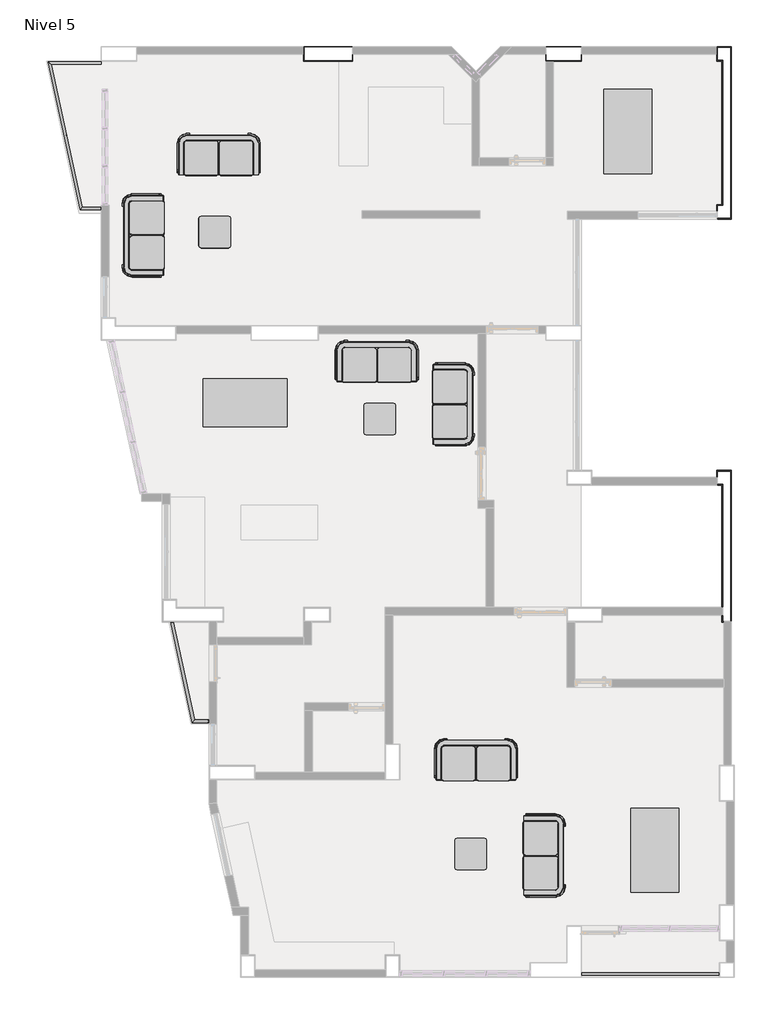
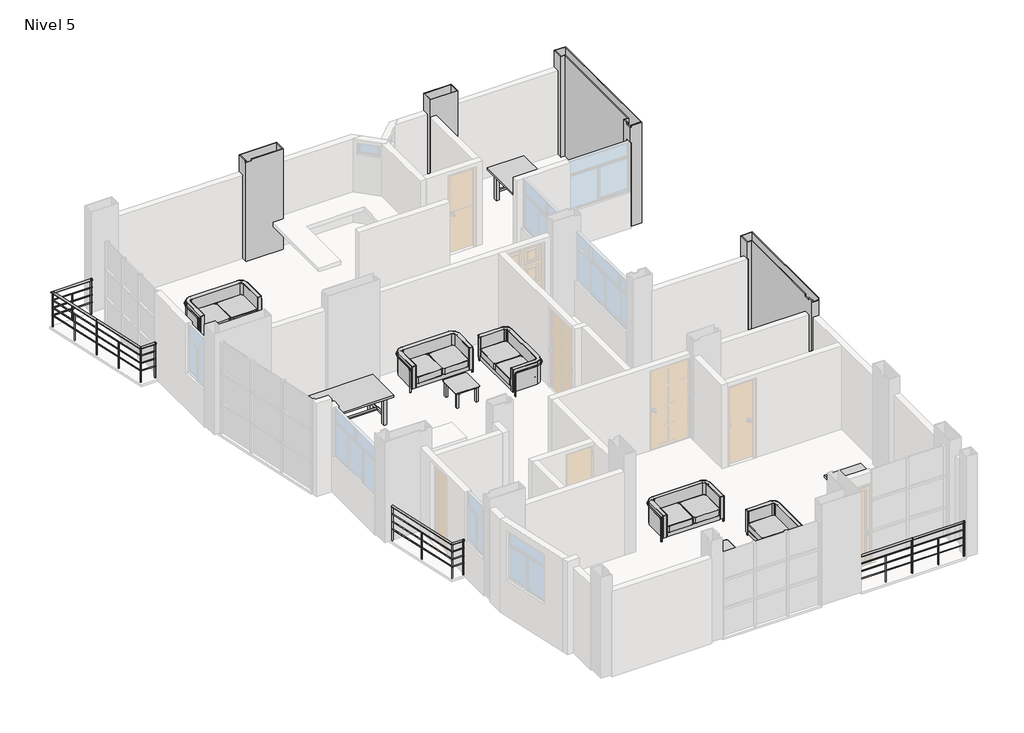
# One storey, part 4 of 4: 12 furniture elements, 4 columns, 3 railings.
"""IFC4 building model written with IfcOpenShell, lengths in millimetres."""

from ifc_helpers import new_model, si_unit, point, frame, frame_2d, origin, place, context, project, spatial, circle_curve, ellipse_curve, trimmed, segment, composite_curve, outline, extrude, faceted_brep, transform, mapped, element, save
from ifc_brep_helpers import plane_surface, cylinder_surface, advanced_brep
from components import furniture_18450899, furniture_bfac4297, furniture_160_x_80_cm_madera_claro_7cd3064c, furniture_600mm_x_600mm_a769e95e

model = new_model("IFC4")

# Units and contexts
model_context = context("Model", 3, world=origin())
ifc_project = project(units=[si_unit("LENGTHUNIT", "METRE", prefix="MILLI")], contexts=[model_context])

# Site, building, storey
site = spatial("IfcSite", under=ifc_project)
building = spatial("IfcBuilding", under=site)
storey = spatial("IfcBuildingStorey", under=building, Name="Nivel 5", Elevation=10750.0)

# Columns
placement = place(None, origin())
element("IfcColumn", 1, ObjectType="Columna U Arquitectonica : Columna U Arquitectonica", at=placement, inside=storey, context=model_context, shape_type="Brep", body=[
    faceted_brep([(9050.0, 14400.0, 10750.0), (9300.0, 14400.0, 10750.0), (9300.0, 17650.0, 10750.0), (9050.0, 17650.0, 10750.0), (9050.0, 17400.0, 10750.0), (9150.0, 17400.0, 10750.0), (9150.0, 14650.0, 10750.0), (9050.0, 14650.0, 10750.0), (9050.0, 14535.0, 10750.0), (9035.0, 14535.0, 10750.0), (9035.0, 14665.0, 10750.0), (9135.0, 14665.0, 10750.0), (9135.0, 17385.0, 10750.0), (9035.0, 17385.0, 10750.0), (9035.0, 17665.0, 10750.0), (9315.0, 17665.0, 10750.0), (9315.0, 14385.0, 10750.0), (9050.0, 14385.0, 10750.0), (9150.0, 14650.0, 13400.0), (9050.0, 14650.0, 13400.0), (9150.0, 17400.0, 13400.0), (9050.0, 17400.0, 13400.0), (9050.0, 17650.0, 13400.0), (9300.0, 17650.0, 13400.0), (9300.0, 14400.0, 13400.0), (9050.0, 14400.0, 12950.0), (9050.0, 14400.0, 13350.0), (9050.0, 14400.0, 13400.0), (9050.0, 14535.0, 13400.0), (9050.0, 14535.0, 13350.0), (9050.0, 14535.0, 12950.0), (9050.0, 14385.0, 13400.0), (9315.0, 14385.0, 13400.0), (9315.0, 17665.0, 13400.0), (9035.0, 17665.0, 13400.0), (9035.0, 17385.0, 13400.0), (9135.0, 17385.0, 13400.0), (9135.0, 14665.0, 13400.0), (9035.0, 14665.0, 13400.0), (9035.0, 14535.0, 13400.0), (9035.0, 17665.0, 13350.0), (9035.0, 17665.0, 12950.0), (9050.0, 14385.0, 13350.0), (9035.0, 14385.0, 13350.0), (9035.0, 14385.0, 12950.0), (9050.0, 14385.0, 12950.0), (9035.0, 14535.0, 11650.0), (9035.0, 14535.0, 12950.0), (9035.0, 14535.0, 13350.0)], [[[0, 1, 2, 3, 4, 5, 6, 7, 8, 9, 10, 11, 12, 13, 14, 15, 16, 17]], [[7, 6, 18, 19]], [[6, 5, 20, 18]], [[5, 4, 21, 20]], [[4, 3, 22, 21]], [[3, 2, 23, 22]], [[2, 1, 24, 23]], [[1, 0, 25, 26, 27, 24]], [[7, 19, 28, 29, 26, 25, 30, 8]], [[19, 18, 20, 21, 22, 23, 24, 27, 31, 32, 33, 34, 35, 36, 37, 38, 39, 28]], [[11, 10, 38, 37]], [[12, 11, 37, 36]], [[13, 12, 36, 35]], [[14, 13, 35, 34, 40, 41]], [[15, 14, 41, 40, 34, 33]], [[16, 15, 33, 32]], [[16, 32, 31, 42, 43, 44, 45, 17]], [[38, 10, 9, 46, 47, 44, 43, 48, 39]], [[9, 8, 30, 47, 46]], [[45, 25, 0, 17]], [[25, 45, 44, 47, 30]], [[48, 29, 28, 39]], [[42, 26, 29, 48, 43]], [[26, 42, 31, 27]]]),
])
element("IfcColumn", 2, ObjectType="Columna L Arquitectonica : ACO_L 25x285x25x15 cm", at=placement, inside=storey, context=model_context, shape_type="Brep", body=[
    faceted_brep([(9050.0, 9350.0, 10750.0), (9150.0, 9350.0, 10750.0), (9150.0, 7015.0, 10750.0), (9135.0, 7015.0, 10750.0), (9135.0, 9335.0, 10750.0), (9050.0, 9335.0, 10750.0), (9150.0, 6750.0, 10750.0), (9150.0, 6750.0, 13400.0), (9165.0, 6750.0, 13400.0), (9165.0, 6750.0, 13350.0), (9300.0, 6750.0, 13350.0), (9300.0, 6750.0, 12950.0), (9165.0, 6750.0, 12950.0), (9165.0, 6750.0, 10750.0), (9300.0, 9600.0, 10750.0), (9300.0, 6750.0, 10750.0), (9300.0, 6750.0, 13400.0), (9300.0, 9600.0, 13400.0), (9050.0, 9600.0, 10750.0), (9050.0, 9600.0, 13400.0), (9050.0, 9350.0, 13400.0), (9050.0, 9350.0, 12950.0), (9050.0, 9485.0, 12950.0), (9050.0, 9485.0, 10750.0), (9150.0, 9350.0, 13400.0), (9150.0, 6865.0, 10750.0), (9150.0, 6865.0, 12950.0), (9150.0, 7015.0, 12950.0), (9150.0, 7015.0, 13400.0), (9150.0, 7015.0, 13350.0), (9150.0, 6865.0, 13350.0), (9150.0, 6865.0, 13400.0), (9135.0, 9335.0, 13400.0), (9135.0, 7015.0, 12950.0), (9135.0, 6865.0, 12950.0), (9135.0, 6865.0, 10750.0), (9135.0, 6735.0, 10750.0), (9135.0, 6735.0, 13400.0), (9135.0, 6865.0, 13400.0), (9135.0, 6865.0, 13350.0), (9135.0, 7015.0, 13350.0), (9135.0, 7015.0, 13400.0), (9035.0, 9335.0, 13400.0), (9035.0, 9335.0, 12950.0), (9050.0, 9335.0, 12950.0), (9035.0, 9615.0, 13400.0), (9035.0, 9615.0, 10750.0), (9035.0, 9485.0, 10750.0), (9035.0, 9485.0, 12950.0), (9315.0, 9615.0, 10750.0), (9315.0, 9615.0, 13400.0), (9315.0, 6750.0, 13400.0), (9315.0, 6750.0, 13350.0), (9315.0, 6735.0, 13350.0), (9315.0, 6735.0, 12950.0), (9315.0, 6750.0, 12950.0), (9315.0, 6750.0, 10750.0), (9165.0, 6735.0, 10750.0), (9165.0, 6735.0, 12950.0), (9165.0, 6735.0, 13350.0), (9165.0, 6735.0, 13400.0)], [[[0, 1, 2, 3, 4, 5]], [[6, 7, 8, 9, 10, 11, 12, 13]], [[14, 15, 11, 10, 16, 17]], [[18, 14, 17, 19]], [[18, 19, 20, 21, 22, 23]], [[1, 0, 21, 20, 24]], [[7, 6, 25, 26, 27, 2, 1, 24, 28, 29, 30, 31]], [[32, 4, 3, 33, 34, 35, 36, 37, 38, 39, 40, 41]], [[4, 32, 42, 43, 44, 5]], [[42, 45, 46, 47, 48, 43]], [[49, 46, 45, 50]], [[49, 50, 51, 52, 53, 54, 55, 56]], [[37, 36, 57, 58, 54, 53, 59, 60]], [[17, 16, 51, 50, 45, 42, 32, 41, 28, 24, 20, 19]], [[35, 34, 26, 25]], [[33, 3, 2, 27]], [[34, 33, 27, 26]], [[12, 58, 57, 13]], [[11, 55, 54, 58, 12]], [[55, 11, 15, 56]], [[36, 35, 25, 6, 13, 57]], [[22, 48, 47, 23]], [[44, 21, 0, 5]], [[48, 22, 21, 44, 43]], [[15, 14, 18, 23, 47, 46, 49, 56]], [[59, 9, 8, 60]], [[52, 10, 9, 59, 53]], [[10, 52, 51, 16]], [[40, 29, 28, 41]], [[30, 39, 38, 31]], [[29, 40, 39, 30]], [[8, 7, 31, 38, 37, 60]]]),
])
element("IfcColumn", 3, ObjectType="Columna Rectangular Arquitectonica : ACO_Rectangular 25x65 cm", at=placement, inside=storey, context=model_context, shape_type="Brep", body=[
    faceted_brep([(5785.0, 17665.0, 10750.0), (6465.0, 17665.0, 10750.0), (6465.0, 17385.0, 10750.0), (5785.0, 17385.0, 10750.0), (5800.0, 17650.0, 10750.0), (5800.0, 17400.0, 10750.0), (6450.0, 17400.0, 10750.0), (6450.0, 17650.0, 10750.0), (5800.0, 17650.0, 13400.0), (5800.0, 17400.0, 13400.0), (6450.0, 17400.0, 13400.0), (6450.0, 17650.0, 13400.0), (5785.0, 17665.0, 13400.0), (6465.0, 17665.0, 13400.0), (6465.0, 17665.0, 13350.0), (6465.0, 17665.0, 12950.0), (5785.0, 17665.0, 12950.0), (5785.0, 17665.0, 13350.0), (6465.0, 17385.0, 13400.0), (5785.0, 17385.0, 13400.0), (5785.0, 17385.0, 13350.0), (5785.0, 17385.0, 12950.0)], [[[0, 1, 2, 3], [4, 5, 6, 7]], [[8, 9, 5, 4]], [[9, 10, 6, 5]], [[10, 11, 7, 6]], [[11, 8, 4, 7]], [[12, 13, 14, 15, 1, 0, 16, 17]], [[13, 18, 2, 1, 15, 14]], [[18, 19, 20, 21, 3, 2]], [[19, 12, 17, 16, 0, 3, 21, 20]], [[12, 19, 18, 13], [8, 11, 10, 9]]]),
])
element("IfcColumn", 4, ObjectType="Columna Rectangular Arquitectonica : ACO_Rectangular 25x90 cm", at=placement, inside=storey, context=model_context, shape_type="Brep", body=[
    faceted_brep([(1185.0, 17665.0, 10750.0), (2115.0, 17665.0, 10750.0), (2115.0, 17385.0, 10750.0), (1185.0, 17385.0, 10750.0), (1200.0, 17650.0, 10750.0), (1200.0, 17400.0, 10750.0), (2100.0, 17400.0, 10750.0), (2100.0, 17650.0, 10750.0), (1200.0, 17650.0, 13400.0), (1200.0, 17400.0, 13400.0), (1200.0, 17400.0, 13350.0), (1335.0, 17400.0, 13350.0), (1335.0, 17400.0, 13400.0), (2100.0, 17400.0, 13400.0), (2100.0, 17650.0, 13400.0), (1185.0, 17665.0, 12950.0), (1185.0, 17665.0, 13350.0), (1185.0, 17665.0, 13400.0), (2115.0, 17665.0, 13400.0), (2115.0, 17665.0, 13350.0), (2115.0, 17665.0, 12950.0), (2115.0, 17385.0, 13400.0), (1335.0, 17385.0, 13400.0), (1335.0, 17385.0, 13350.0), (1185.0, 17385.0, 13350.0), (1185.0, 17400.0, 13350.0), (1185.0, 17400.0, 13400.0)], [[[0, 1, 2, 3], [4, 5, 6, 7]], [[5, 4, 8, 9, 10]], [[6, 5, 10, 11, 12, 13]], [[7, 6, 13, 14]], [[4, 7, 14, 8]], [[1, 0, 15, 16, 17, 18, 19, 20]], [[2, 1, 20, 19, 18, 21]], [[3, 2, 21, 22, 23, 24]], [[0, 3, 24, 25, 26, 17, 16, 15]], [[9, 8, 14, 13, 12, 22, 21, 18, 17, 26]], [[11, 23, 22, 12]], [[10, 25, 24, 23, 11]], [[25, 10, 9, 26]]]),
])

# Furniture
furniture_shape = furniture_18450899(model_context)
furniture_2_shape = furniture_bfac4297(model_context)
element("IfcFurniture", 5, ObjectType="00304 - Haworth - Castelli - Jul 13 - Ver - 4 - M_Sit (SLMS-FD02-8P) : Settee_SLMS-FD-02", at=placement, inside=storey, context=model_context, shape_type="MappedRepresentation", body=[
    mapped(furniture_shape, transform((-468.0610143, 15301.2276294, 10750.0), x_axis=(1.0, 0.0, 0.0), y_axis=(0.0, 1.0, 0.0), z_axis=(0.0, 0.0, 1.0))),
    mapped(furniture_2_shape, transform((-468.0610143, 15301.2276294, 10750.0), x_axis=(1.0, 0.0, 0.0), y_axis=(0.0, 1.0, 0.0), z_axis=(0.0, 0.0, 1.0))),
])
element("IfcFurniture", 6, ObjectType="00304 - Haworth - Castelli - Jul 13 - Ver - 4 - M_Sit (SLMS-FD02-8P) : Settee_SLMS-FD-02", at=placement, inside=storey, context=model_context, shape_type="MappedRepresentation", body=[
    mapped(furniture_shape, transform((-1551.2276294, 14040.2605133, 10750.0), x_axis=(0.0, 1.0, 0.0), y_axis=(-1.0, 0.0, 0.0), z_axis=(0.0, 0.0, 1.0))),
    mapped(furniture_2_shape, transform((-1551.2276294, 14040.2605133, 10750.0), x_axis=(0.0, 1.0, 0.0), y_axis=(-1.0, 0.0, 0.0), z_axis=(0.0, 0.0, 1.0))),
])
element("IfcFurniture", 7, ObjectType="00304 - Haworth - Castelli - Jul 13 - Ver - 4 - M_Sit (SLMS-FD02-8P) : Settee_SLMS-FD-02", at=placement, inside=storey, context=model_context, shape_type="MappedRepresentation", body=[
    mapped(furniture_shape, transform((2536.9389857, 11371.2276294, 10750.0), x_axis=(1.0, 0.0, 0.0), y_axis=(0.0, 1.0, 0.0), z_axis=(0.0, 0.0, 1.0))),
    mapped(furniture_2_shape, transform((2536.9389857, 11371.2276294, 10750.0), x_axis=(1.0, 0.0, 0.0), y_axis=(0.0, 1.0, 0.0), z_axis=(0.0, 0.0, 1.0))),
])
element("IfcFurniture", 8, ObjectType="00304 - Haworth - Castelli - Jul 13 - Ver - 4 - M_Sit (SLMS-FD02-8P) : Settee_SLMS-FD-02", at=placement, inside=storey, context=model_context, shape_type="MappedRepresentation", body=[
    mapped(furniture_shape, transform((3716.220252, 10908.0536369, 10750.0), x_axis=(0.0, -1.0, 0.0), y_axis=(1.0, 0.0, 0.0), z_axis=(0.0, 0.0, 1.0))),
    mapped(furniture_2_shape, transform((3716.220252, 10908.0536369, 10750.0), x_axis=(0.0, -1.0, 0.0), y_axis=(1.0, 0.0, 0.0), z_axis=(0.0, 0.0, 1.0))),
])
element("IfcFurniture", 9, ObjectType="00304 - Haworth - Castelli - Jul 13 - Ver - 4 - M_Sit (SLMS-FD02-8P) : Settee_SLMS-FD-02", at=placement, inside=storey, context=model_context, shape_type="MappedRepresentation", body=[
    mapped(furniture_shape, transform((4421.9463631, 3806.5903112, 10750.0), x_axis=(1.0, 0.0, 0.0), y_axis=(0.0, 1.0, 0.0), z_axis=(0.0, 0.0, 1.0))),
    mapped(furniture_2_shape, transform((4421.9463631, 3806.5903112, 10750.0), x_axis=(1.0, 0.0, 0.0), y_axis=(0.0, 1.0, 0.0), z_axis=(0.0, 0.0, 1.0))),
])
element("IfcFurniture", 10, ObjectType="00304 - Haworth - Castelli - Jul 13 - Ver - 4 - M_Sit (SLMS-FD02-8P) : Settee_SLMS-FD-02", at=placement, inside=storey, context=model_context, shape_type="MappedRepresentation", body=[
    mapped(furniture_shape, transform((5441.2276294, 2338.3056587, 10750.0), x_axis=(0.0, -1.0, 0.0), y_axis=(1.0, 0.0, 0.0), z_axis=(0.0, 0.0, 1.0))),
    mapped(furniture_2_shape, transform((5441.2276294, 2338.3056587, 10750.0), x_axis=(0.0, -1.0, 0.0), y_axis=(1.0, 0.0, 0.0), z_axis=(0.0, 0.0, 1.0))),
])
furniture_160_x_80_cm_madera_claro_shape = furniture_160_x_80_cm_madera_claro_7cd3064c(model_context)
element("IfcFurniture", 11, ObjectType="Mesa Comedor 6 personas : 160 x 80 cm - Madera claro", at=placement, inside=storey, context=model_context, shape_type="MappedRepresentation", body=[
    mapped(furniture_160_x_80_cm_madera_claro_shape, transform((7389.1299407, 16034.682456, 10750.0), x_axis=(0.0, 1.0, 0.0), y_axis=(-1.0, 0.0, 0.0), z_axis=(0.0, 0.0, 1.0))),
])
element("IfcFurniture", 12, ObjectType="Mesa Comedor 6 personas : 160 x 80 cm - Madera claro", at=placement, inside=storey, context=model_context, shape_type="MappedRepresentation", body=[
    mapped(furniture_160_x_80_cm_madera_claro_shape, transform((85.317544, 10939.8506137, 10750.0), x_axis=(-1.0, 0.0, 0.0), y_axis=(0.0, -1.0, 0.0), z_axis=(0.0, 0.0, 1.0))),
])
element("IfcFurniture", 13, ObjectType="Mesa Comedor 6 personas : 160 x 80 cm - Madera claro", at=placement, inside=storey, context=model_context, shape_type="MappedRepresentation", body=[
    mapped(furniture_160_x_80_cm_madera_claro_shape, transform((7820.8700593, 2415.317544, 10750.0), x_axis=(0.0, -1.0, 0.0), y_axis=(1.0, 0.0, 0.0), z_axis=(0.0, 0.0, 1.0))),
])
furniture_600mm_x_600mm_shape = furniture_600mm_x_600mm_a769e95e(model_context)
element("IfcFurniture", 14, ObjectType="Table rectangulaire - Petit : 600mm x 600mm", at=placement, inside=storey, context=model_context, shape_type="MappedRepresentation", body=[
    mapped(furniture_600mm_x_600mm_shape, transform((-534.1526908, 14170.0, 10750.0), x_axis=(1.0, 0.0, 0.0), y_axis=(0.0, 1.0, 0.0), z_axis=(0.0, 0.0, 1.0))),
])
element("IfcFurniture", 15, ObjectType="Table rectangulaire - Petit : 600mm x 600mm", at=placement, inside=storey, context=model_context, shape_type="MappedRepresentation", body=[
    mapped(furniture_600mm_x_600mm_shape, transform((2600.8941768, 10620.0, 10750.0), x_axis=(1.0, 0.0, 0.0), y_axis=(0.0, 1.0, 0.0), z_axis=(0.0, 0.0, 1.0))),
])
element("IfcFurniture", 16, ObjectType="Table rectangulaire - Petit : 600mm x 600mm", at=placement, inside=storey, context=model_context, shape_type="MappedRepresentation", body=[
    mapped(furniture_600mm_x_600mm_shape, transform((4330.8941768, 2360.0, 10750.0), x_axis=(1.0, 0.0, 0.0), y_axis=(0.0, 1.0, 0.0), z_axis=(0.0, 0.0, 1.0))),
])

# Railings
element("IfcRailing", 17, ObjectType="Montantes Horizontales", at=placement, inside=storey, context=model_context, shape_type="SolidModel", body=[
    advanced_brep(
    [(-2665.0, 17375.0, 11650.0), (-2665.0, 17325.0, 11650.0), (-3674.0339681, 17375.0, 11650.0), (-3612.062221, 17325.0, 11650.0), (-3066.2089566, 14565.0, 11650.0), (-3025.8679928, 14615.0, 11650.0), (-2665.0, 14565.0, 11650.0), (-2665.0, 14615.0, 11650.0)],
    [
        (0, 1, circle_curve(frame((-2665.0, 17350.0, 11650.0), z_axis=(1.0, 0.0, 0.0), x_axis=(0.0, -1.0, 0.0)), 25.0)),
        (1, 0, circle_curve(frame((-2665.0, 17350.0, 11650.0), z_axis=(1.0, 0.0, 0.0), x_axis=(0.0, -1.0, 0.0)), 25.0)),
        (0, 2),
        (2, 3, ellipse_curve(frame((-3643.0480946, 17350.0, 11650.0), z_axis=(0.6279258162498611, 0.7782731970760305, 0.0), x_axis=(0.7782731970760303, -0.6279258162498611, 0.0)), 39.8136203, 25.0)),
        (3, 1),
        (3, 2, ellipse_curve(frame((-3643.0480946, 17350.0, 11650.0), z_axis=(0.6279258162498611, 0.7782731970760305, 0.0), x_axis=(0.7782731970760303, -0.6279258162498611, 0.0)), 39.8136203, 25.0)),
        (2, 4),
        (4, 5, ellipse_curve(frame((-3046.0384747, 14590.0, 11650.0), z_axis=(-0.7782731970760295, 0.6279258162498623, 0.0), x_axis=(0.6279258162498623, 0.7782731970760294, 0.0)), 32.1223962, 25.0)),
        (5, 3),
        (5, 4, ellipse_curve(frame((-3046.0384747, 14590.0, 11650.0), z_axis=(-0.7782731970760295, 0.6279258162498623, 0.0), x_axis=(0.6279258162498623, 0.7782731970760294, 0.0)), 32.1223962, 25.0)),
        (6, 7, circle_curve(frame((-2665.0, 14590.0, 11650.0), z_axis=(1.0, 0.0, 0.0), x_axis=(0.0, 1.0, 0.0)), 25.0)),
        (7, 6, circle_curve(frame((-2665.0, 14590.0, 11650.0), z_axis=(1.0, 0.0, 0.0), x_axis=(0.0, 1.0, 0.0)), 25.0)),
        (4, 6),
        (7, 5),
    ],
    [
        plane_surface(frame((-2665.0, 17350.0, 11650.0), z_axis=(1.0, 0.0, 0.0), x_axis=(0.0, -1.0, 0.0))),
        cylinder_surface(frame((-2665.0, 17350.0, 11650.0), z_axis=(1.0, 0.0, 0.0), x_axis=(0.0, -1.0, 0.0)), 25.0),
        cylinder_surface(frame((-3643.0480946, 17350.0, 11650.0), z_axis=(-0.21141833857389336, 0.9773956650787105, 0.0), x_axis=(0.9773956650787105, 0.21141833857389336, 0.0)), 25.0),
        plane_surface(frame((-2665.0, 14590.0, 11650.0), z_axis=(1.0, 0.0, 0.0), x_axis=(0.0, 1.0, 0.0))),
        cylinder_surface(frame((-3046.0384747, 14590.0, 11650.0), z_axis=(-1.0, 0.0, 0.0), x_axis=(0.0, 1.0, 0.0)), 25.0),
    ],
    [
        (0, [[1, 2]]),
        (1, [[-1, 3, 4, 5]]),
        (1, [[-2, -5, 6, -3]]),
        (2, [[-4, 7, 8, 9]]),
        (2, [[-6, -9, 10, -7]]),
        (3, [[11, 12]]),
        (4, [[-8, 13, -12, 14]]),
        (4, [[-10, -14, -11, -13]]),
    ],
),
    advanced_brep(
    [(-2665.0, 17340.0, 11450.0), (-2665.0, 17360.0, 11450.0), (-3630.6537452, 17340.0, 11450.0), (-3655.442444, 17360.0, 11450.0), (-3037.970282, 14600.0, 11450.0), (-3054.1066675, 14580.0, 11450.0), (-2665.0, 14600.0, 11450.0), (-2665.0, 14580.0, 11450.0)],
    [
        (0, 1, circle_curve(frame((-2665.0, 17350.0, 11450.0), z_axis=(1.0, 0.0, 0.0), x_axis=(0.0, 1.0, 0.0)), 10.0)),
        (1, 0, circle_curve(frame((-2665.0, 17350.0, 11450.0), z_axis=(1.0, 0.0, 0.0), x_axis=(0.0, 1.0, 0.0)), 10.0)),
        (0, 2),
        (2, 3, ellipse_curve(frame((-3643.0480946, 17350.0, 11450.0), z_axis=(0.6279258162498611, 0.7782731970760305, 0.0), x_axis=(0.7782731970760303, -0.6279258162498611, 0.0)), 15.9254481, 10.0)),
        (3, 1),
        (3, 2, ellipse_curve(frame((-3643.0480946, 17350.0, 11450.0), z_axis=(0.6279258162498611, 0.7782731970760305, 0.0), x_axis=(0.7782731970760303, -0.6279258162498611, 0.0)), 15.9254481, 10.0)),
        (2, 4),
        (4, 5, ellipse_curve(frame((-3046.0384747, 14590.0, 11450.0), z_axis=(-0.7782731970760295, 0.6279258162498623, 0.0), x_axis=(0.6279258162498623, 0.7782731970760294, 0.0)), 12.8489585, 10.0)),
        (5, 3),
        (5, 4, ellipse_curve(frame((-3046.0384747, 14590.0, 11450.0), z_axis=(-0.7782731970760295, 0.6279258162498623, 0.0), x_axis=(0.6279258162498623, 0.7782731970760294, 0.0)), 12.8489585, 10.0)),
        (6, 7, circle_curve(frame((-2665.0, 14590.0, 11450.0), z_axis=(1.0, 0.0, 0.0), x_axis=(0.0, -1.0, 0.0)), 10.0)),
        (7, 6, circle_curve(frame((-2665.0, 14590.0, 11450.0), z_axis=(1.0, 0.0, 0.0), x_axis=(0.0, -1.0, 0.0)), 10.0)),
        (4, 6),
        (7, 5),
    ],
    [
        plane_surface(frame((-2665.0, 17350.0, 11450.0), z_axis=(1.0, 0.0, 0.0), x_axis=(0.0, -1.0, 0.0))),
        cylinder_surface(frame((-2665.0, 17350.0, 11450.0), z_axis=(1.0, 0.0, 0.0), x_axis=(0.0, 1.0, 0.0)), 10.0),
        cylinder_surface(frame((-3643.0480946, 17350.0, 11450.0), z_axis=(-0.21141833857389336, 0.9773956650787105, 0.0), x_axis=(-0.9773956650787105, -0.21141833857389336, 0.0)), 10.0),
        plane_surface(frame((-2665.0, 14590.0, 11450.0), z_axis=(1.0, 0.0, 0.0), x_axis=(0.0, 1.0, 0.0))),
        cylinder_surface(frame((-3046.0384747, 14590.0, 11450.0), z_axis=(-1.0, 0.0, 0.0), x_axis=(0.0, -1.0, 0.0)), 10.0),
    ],
    [
        (0, [[1, 2]]),
        (1, [[-1, 3, 4, 5]]),
        (1, [[-2, -5, 6, -3]]),
        (2, [[-4, 7, 8, 9]]),
        (2, [[-6, -9, 10, -7]]),
        (3, [[11, 12]]),
        (4, [[-8, 13, -12, 14]]),
        (4, [[-10, -14, -11, -13]]),
    ],
),
    advanced_brep(
    [(-2665.0, 17340.0, 11250.0), (-2665.0, 17360.0, 11250.0), (-3630.6537452, 17340.0, 11250.0), (-3655.442444, 17360.0, 11250.0), (-3037.970282, 14600.0, 11250.0), (-3054.1066675, 14580.0, 11250.0), (-2665.0, 14600.0, 11250.0), (-2665.0, 14580.0, 11250.0)],
    [
        (0, 1, circle_curve(frame((-2665.0, 17350.0, 11250.0), z_axis=(1.0, 0.0, 0.0), x_axis=(0.0, 1.0, 0.0)), 10.0)),
        (1, 0, circle_curve(frame((-2665.0, 17350.0, 11250.0), z_axis=(1.0, 0.0, 0.0), x_axis=(0.0, 1.0, 0.0)), 10.0)),
        (0, 2),
        (2, 3, ellipse_curve(frame((-3643.0480946, 17350.0, 11250.0), z_axis=(0.6279258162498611, 0.7782731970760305, 0.0), x_axis=(0.7782731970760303, -0.6279258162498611, 0.0)), 15.9254481, 10.0)),
        (3, 1),
        (3, 2, ellipse_curve(frame((-3643.0480946, 17350.0, 11250.0), z_axis=(0.6279258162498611, 0.7782731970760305, 0.0), x_axis=(0.7782731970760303, -0.6279258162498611, 0.0)), 15.9254481, 10.0)),
        (2, 4),
        (4, 5, ellipse_curve(frame((-3046.0384747, 14590.0, 11250.0), z_axis=(-0.7782731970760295, 0.6279258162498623, 0.0), x_axis=(0.6279258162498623, 0.7782731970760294, 0.0)), 12.8489585, 10.0)),
        (5, 3),
        (5, 4, ellipse_curve(frame((-3046.0384747, 14590.0, 11250.0), z_axis=(-0.7782731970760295, 0.6279258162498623, 0.0), x_axis=(0.6279258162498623, 0.7782731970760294, 0.0)), 12.8489585, 10.0)),
        (6, 7, circle_curve(frame((-2665.0, 14590.0, 11250.0), z_axis=(1.0, 0.0, 0.0), x_axis=(0.0, -1.0, 0.0)), 10.0)),
        (7, 6, circle_curve(frame((-2665.0, 14590.0, 11250.0), z_axis=(1.0, 0.0, 0.0), x_axis=(0.0, -1.0, 0.0)), 10.0)),
        (4, 6),
        (7, 5),
    ],
    [
        plane_surface(frame((-2665.0, 17350.0, 11250.0), z_axis=(1.0, 0.0, 0.0), x_axis=(0.0, -1.0, 0.0))),
        cylinder_surface(frame((-2665.0, 17350.0, 11250.0), z_axis=(1.0, 0.0, 0.0), x_axis=(0.0, 1.0, 0.0)), 10.0),
        cylinder_surface(frame((-3643.0480946, 17350.0, 11250.0), z_axis=(-0.21141833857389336, 0.9773956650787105, 0.0), x_axis=(-0.9773956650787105, -0.21141833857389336, 0.0)), 10.0),
        plane_surface(frame((-2665.0, 14590.0, 11250.0), z_axis=(1.0, 0.0, 0.0), x_axis=(0.0, 1.0, 0.0))),
        cylinder_surface(frame((-3046.0384747, 14590.0, 11250.0), z_axis=(-1.0, 0.0, 0.0), x_axis=(0.0, -1.0, 0.0)), 10.0),
    ],
    [
        (0, [[1, 2]]),
        (1, [[-1, 3, 4, 5]]),
        (1, [[-2, -5, 6, -3]]),
        (2, [[-4, 7, 8, 9]]),
        (2, [[-6, -9, 10, -7]]),
        (3, [[11, 12]]),
        (4, [[-8, 13, -12, 14]]),
        (4, [[-10, -14, -11, -13]]),
    ],
),
    advanced_brep(
    [(-2665.0, 17340.0, 11050.0), (-2665.0, 17360.0, 11050.0), (-3630.6537452, 17340.0, 11050.0), (-3655.442444, 17360.0, 11050.0), (-3037.970282, 14600.0, 11050.0), (-3054.1066675, 14580.0, 11050.0), (-2665.0, 14600.0, 11050.0), (-2665.0, 14580.0, 11050.0)],
    [
        (0, 1, circle_curve(frame((-2665.0, 17350.0, 11050.0), z_axis=(1.0, 0.0, 0.0), x_axis=(0.0, 1.0, 0.0)), 10.0)),
        (1, 0, circle_curve(frame((-2665.0, 17350.0, 11050.0), z_axis=(1.0, 0.0, 0.0), x_axis=(0.0, 1.0, 0.0)), 10.0)),
        (0, 2),
        (2, 3, ellipse_curve(frame((-3643.0480946, 17350.0, 11050.0), z_axis=(0.6279258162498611, 0.7782731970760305, 0.0), x_axis=(0.7782731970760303, -0.6279258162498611, 0.0)), 15.9254481, 10.0)),
        (3, 1),
        (3, 2, ellipse_curve(frame((-3643.0480946, 17350.0, 11050.0), z_axis=(0.6279258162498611, 0.7782731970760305, 0.0), x_axis=(0.7782731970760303, -0.6279258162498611, 0.0)), 15.9254481, 10.0)),
        (2, 4),
        (4, 5, ellipse_curve(frame((-3046.0384747, 14590.0, 11050.0), z_axis=(-0.7782731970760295, 0.6279258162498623, 0.0), x_axis=(0.6279258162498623, 0.7782731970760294, 0.0)), 12.8489585, 10.0)),
        (5, 3),
        (5, 4, ellipse_curve(frame((-3046.0384747, 14590.0, 11050.0), z_axis=(-0.7782731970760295, 0.6279258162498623, 0.0), x_axis=(0.6279258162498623, 0.7782731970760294, 0.0)), 12.8489585, 10.0)),
        (6, 7, circle_curve(frame((-2665.0, 14590.0, 11050.0), z_axis=(1.0, 0.0, 0.0), x_axis=(0.0, -1.0, 0.0)), 10.0)),
        (7, 6, circle_curve(frame((-2665.0, 14590.0, 11050.0), z_axis=(1.0, 0.0, 0.0), x_axis=(0.0, -1.0, 0.0)), 10.0)),
        (4, 6),
        (7, 5),
    ],
    [
        plane_surface(frame((-2665.0, 17350.0, 11050.0), z_axis=(1.0, 0.0, 0.0), x_axis=(0.0, -1.0, 0.0))),
        cylinder_surface(frame((-2665.0, 17350.0, 11050.0), z_axis=(1.0, 0.0, 0.0), x_axis=(0.0, 1.0, 0.0)), 10.0),
        cylinder_surface(frame((-3643.0480946, 17350.0, 11050.0), z_axis=(-0.21141833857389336, 0.9773956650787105, 0.0), x_axis=(-0.9773956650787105, -0.21141833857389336, 0.0)), 10.0),
        plane_surface(frame((-2665.0, 14590.0, 11050.0), z_axis=(1.0, 0.0, 0.0), x_axis=(0.0, 1.0, 0.0))),
        cylinder_surface(frame((-3046.0384747, 14590.0, 11050.0), z_axis=(-1.0, 0.0, 0.0), x_axis=(0.0, -1.0, 0.0)), 10.0),
    ],
    [
        (0, [[1, 2]]),
        (1, [[-1, 3, 4, 5]]),
        (1, [[-2, -5, 6, -3]]),
        (2, [[-4, 7, 8, 9]]),
        (2, [[-6, -9, 10, -7]]),
        (3, [[11, 12]]),
        (4, [[-8, 13, -12, 14]]),
        (4, [[-10, -14, -11, -13]]),
    ],
),
    extrude(outline(composite_curve([segment(trimmed(circle_curve(frame_2d((-3195.2908797, 15280.0)), 10.0), [point((-3185.516923, 15282.1141834))], [point((-3205.0648363, 15277.8858166))], False, "CARTESIAN"), True, "CONTINUOUS"), segment(trimmed(circle_curve(frame_2d((-3195.2908797, 15280.0)), 10.0), [point((-3205.0648363, 15277.8858166))], [point((-3185.516923, 15282.1141834))], False, "CARTESIAN"), True, "CONTINUOUS")], self_intersect=False)), frame((0.0, 0.0, 10750.0), z_axis=(0.0, 0.0, 1.0), x_axis=(1.0, 0.0, 0.0)), (0.0, 0.0, 1.0), 690.0),
    extrude(outline(composite_curve([segment(trimmed(circle_curve(frame_2d((-3344.5432846, 15970.0)), 15.0), [point((-3329.8823497, 15973.1712751))], [point((-3359.2042196, 15966.8287249))], False, "CARTESIAN"), True, "CONTINUOUS"), segment(trimmed(circle_curve(frame_2d((-3344.5432846, 15970.0)), 15.0), [point((-3359.2042196, 15966.8287249))], [point((-3329.8823497, 15973.1712751))], False, "CARTESIAN"), True, "CONTINUOUS")], self_intersect=False)), frame((0.0, 0.0, 10750.0), z_axis=(0.0, 0.0, 1.0), x_axis=(1.0, 0.0, 0.0)), (0.0, 0.0, 1.0), 920.0),
    extrude(outline(composite_curve([segment(trimmed(circle_curve(frame_2d((-3493.7956896, 16660.0)), 10.0), [point((-3484.021733, 16662.1141834))], [point((-3503.5696463, 16657.8858166))], False, "CARTESIAN"), True, "CONTINUOUS"), segment(trimmed(circle_curve(frame_2d((-3493.7956896, 16660.0)), 10.0), [point((-3503.5696463, 16657.8858166))], [point((-3484.021733, 16662.1141834))], False, "CARTESIAN"), True, "CONTINUOUS")], self_intersect=False)), frame((0.0, 0.0, 10750.0), z_axis=(0.0, 0.0, 1.0), x_axis=(1.0, 0.0, 0.0)), (0.0, 0.0, 1.0), 690.0),
    extrude(outline(composite_curve([segment(trimmed(circle_curve(frame_2d((-3154.0240473, 17350.0)), 10.0), [point((-3154.0240473, 17340.0))], [point((-3154.0240473, 17360.0))], False, "CARTESIAN"), True, "CONTINUOUS"), segment(trimmed(circle_curve(frame_2d((-3154.0240473, 17350.0)), 10.0), [point((-3154.0240473, 17360.0))], [point((-3154.0240473, 17340.0))], False, "CARTESIAN"), True, "CONTINUOUS")], self_intersect=False)), frame((0.0, 0.0, 10750.0), z_axis=(0.0, 0.0, 1.0), x_axis=(1.0, 0.0, 0.0)), (0.0, 0.0, 1.0), 690.0),
    extrude(outline(composite_curve([segment(trimmed(circle_curve(frame_2d((-3046.0384747, 14590.0)), 10.0), [point((-3036.2645181, 14592.1141834))], [point((-3055.8124314, 14587.8858166))], False, "CARTESIAN"), True, "CONTINUOUS"), segment(trimmed(circle_curve(frame_2d((-3046.0384747, 14590.0)), 10.0), [point((-3055.8124314, 14587.8858166))], [point((-3036.2645181, 14592.1141834))], False, "CARTESIAN"), True, "CONTINUOUS")], self_intersect=False)), frame((0.0, 0.0, 10750.0), z_axis=(0.0, 0.0, 1.0), x_axis=(1.0, 0.0, 0.0)), (0.0, 0.0, 1.0), 920.0),
    extrude(outline(composite_curve([segment(trimmed(circle_curve(frame_2d((-3643.0480946, 17350.0)), 10.0), [point((-3643.0480946, 17340.0))], [point((-3643.0480946, 17360.0))], False, "CARTESIAN"), True, "CONTINUOUS"), segment(trimmed(circle_curve(frame_2d((-3643.0480946, 17350.0)), 10.0), [point((-3643.0480946, 17360.0))], [point((-3643.0480946, 17340.0))], False, "CARTESIAN"), True, "CONTINUOUS")], self_intersect=False)), frame((0.0, 0.0, 10750.0), z_axis=(0.0, 0.0, 1.0), x_axis=(1.0, 0.0, 0.0)), (0.0, 0.0, 1.0), 920.0),
    extrude(outline(composite_curve([segment(trimmed(circle_curve(frame_2d((-2685.0, 14590.0)), 15.0), [point((-2685.0, 14605.0))], [point((-2685.0, 14575.0))], False, "CARTESIAN"), True, "CONTINUOUS"), segment(trimmed(circle_curve(frame_2d((-2685.0, 14590.0)), 15.0), [point((-2685.0, 14575.0))], [point((-2685.0, 14605.0))], False, "CARTESIAN"), True, "CONTINUOUS")], self_intersect=False)), frame((0.0, 0.0, 10750.0), z_axis=(0.0, 0.0, 1.0), x_axis=(1.0, 0.0, 0.0)), (0.0, 0.0, 1.0), 920.0),
    extrude(outline(composite_curve([segment(trimmed(circle_curve(frame_2d((-2685.0, 17350.0)), 15.0), [point((-2685.0, 17335.0))], [point((-2685.0, 17365.0))], False, "CARTESIAN"), True, "CONTINUOUS"), segment(trimmed(circle_curve(frame_2d((-2685.0, 17350.0)), 15.0), [point((-2685.0, 17365.0))], [point((-2685.0, 17335.0))], False, "CARTESIAN"), True, "CONTINUOUS")], self_intersect=False)), frame((0.0, 0.0, 10750.0), z_axis=(0.0, 0.0, 1.0), x_axis=(1.0, 0.0, 0.0)), (0.0, 0.0, 1.0), 920.0),
])
element("IfcRailing", 18, ObjectType="Montantes Horizontales", at=placement, inside=storey, context=model_context, shape_type="SweptSolid", body=[
    extrude(outline(composite_curve([segment(trimmed(circle_curve(frame_2d((50.0, 11650.0)), 25.0), [point((25.0, 11650.0))], [point((75.0, 11650.0))], False, "CARTESIAN"), True, "CONTINUOUS"), segment(trimmed(circle_curve(frame_2d((50.0, 11650.0)), 25.0), [point((75.0, 11650.0))], [point((25.0, 11650.0))], False, "CARTESIAN"), True, "CONTINUOUS")], self_intersect=False)), frame((6465.0, 0.0, 0.0), z_axis=(1.0, 0.0, 0.0), x_axis=(0.0, 1.0, 0.0)), (0.0, 0.0, 1.0), 2620.0),
    extrude(outline(composite_curve([segment(trimmed(circle_curve(frame_2d((50.0, 11450.0)), 10.0), [point((60.0, 11450.0))], [point((40.0, 11450.0))], False, "CARTESIAN"), True, "CONTINUOUS"), segment(trimmed(circle_curve(frame_2d((50.0, 11450.0)), 10.0), [point((40.0, 11450.0))], [point((60.0, 11450.0))], False, "CARTESIAN"), True, "CONTINUOUS")], self_intersect=False)), frame((6465.0, 0.0, 0.0), z_axis=(1.0, 0.0, 0.0), x_axis=(0.0, 1.0, 0.0)), (0.0, 0.0, 1.0), 2620.0),
    extrude(outline(composite_curve([segment(trimmed(circle_curve(frame_2d((50.0, 11250.0)), 10.0), [point((60.0, 11250.0))], [point((40.0, 11250.0))], False, "CARTESIAN"), True, "CONTINUOUS"), segment(trimmed(circle_curve(frame_2d((50.0, 11250.0)), 10.0), [point((40.0, 11250.0))], [point((60.0, 11250.0))], False, "CARTESIAN"), True, "CONTINUOUS")], self_intersect=False)), frame((6465.0, 0.0, 0.0), z_axis=(1.0, 0.0, 0.0), x_axis=(0.0, 1.0, 0.0)), (0.0, 0.0, 1.0), 2620.0),
    extrude(outline(composite_curve([segment(trimmed(circle_curve(frame_2d((50.0, 11050.0)), 10.0), [point((60.0, 11050.0))], [point((40.0, 11050.0))], False, "CARTESIAN"), True, "CONTINUOUS"), segment(trimmed(circle_curve(frame_2d((50.0, 11050.0)), 10.0), [point((40.0, 11050.0))], [point((60.0, 11050.0))], False, "CARTESIAN"), True, "CONTINUOUS")], self_intersect=False)), frame((6465.0, 0.0, 0.0), z_axis=(1.0, 0.0, 0.0), x_axis=(0.0, 1.0, 0.0)), (0.0, 0.0, 1.0), 2620.0),
    extrude(outline(composite_curve([segment(trimmed(circle_curve(frame_2d((8430.0, 50.0)), 10.0), [point((8430.0, 60.0))], [point((8430.0, 40.0))], False, "CARTESIAN"), True, "CONTINUOUS"), segment(trimmed(circle_curve(frame_2d((8430.0, 50.0)), 10.0), [point((8430.0, 40.0))], [point((8430.0, 60.0))], False, "CARTESIAN"), True, "CONTINUOUS")], self_intersect=False)), frame((0.0, 0.0, 10750.0), z_axis=(0.0, 0.0, 1.0), x_axis=(1.0, 0.0, 0.0)), (0.0, 0.0, 1.0), 690.0),
    extrude(outline(composite_curve([segment(trimmed(circle_curve(frame_2d((7775.0, 50.0)), 15.0), [point((7775.0, 65.0))], [point((7775.0, 35.0))], False, "CARTESIAN"), True, "CONTINUOUS"), segment(trimmed(circle_curve(frame_2d((7775.0, 50.0)), 15.0), [point((7775.0, 35.0))], [point((7775.0, 65.0))], False, "CARTESIAN"), True, "CONTINUOUS")], self_intersect=False)), frame((0.0, 0.0, 10750.0), z_axis=(0.0, 0.0, 1.0), x_axis=(1.0, 0.0, 0.0)), (0.0, 0.0, 1.0), 920.0),
    extrude(outline(composite_curve([segment(trimmed(circle_curve(frame_2d((7120.0, 50.0)), 10.0), [point((7120.0, 60.0))], [point((7120.0, 40.0))], False, "CARTESIAN"), True, "CONTINUOUS"), segment(trimmed(circle_curve(frame_2d((7120.0, 50.0)), 10.0), [point((7120.0, 40.0))], [point((7120.0, 60.0))], False, "CARTESIAN"), True, "CONTINUOUS")], self_intersect=False)), frame((0.0, 0.0, 10750.0), z_axis=(0.0, 0.0, 1.0), x_axis=(1.0, 0.0, 0.0)), (0.0, 0.0, 1.0), 690.0),
    extrude(outline(composite_curve([segment(trimmed(circle_curve(frame_2d((9065.0, 50.0)), 15.0), [point((9065.0, 65.0))], [point((9065.0, 35.0))], False, "CARTESIAN"), True, "CONTINUOUS"), segment(trimmed(circle_curve(frame_2d((9065.0, 50.0)), 15.0), [point((9065.0, 35.0))], [point((9065.0, 65.0))], False, "CARTESIAN"), True, "CONTINUOUS")], self_intersect=False)), frame((0.0, 0.0, 10750.0), z_axis=(0.0, 0.0, 1.0), x_axis=(1.0, 0.0, 0.0)), (0.0, 0.0, 1.0), 920.0),
    extrude(outline(composite_curve([segment(trimmed(circle_curve(frame_2d((6485.0, 50.0)), 15.0), [point((6485.0, 65.0))], [point((6485.0, 35.0))], False, "CARTESIAN"), True, "CONTINUOUS"), segment(trimmed(circle_curve(frame_2d((6485.0, 50.0)), 15.0), [point((6485.0, 35.0))], [point((6485.0, 65.0))], False, "CARTESIAN"), True, "CONTINUOUS")], self_intersect=False)), frame((0.0, 0.0, 10750.0), z_axis=(0.0, 0.0, 1.0), x_axis=(1.0, 0.0, 0.0)), (0.0, 0.0, 1.0), 920.0),
])
element("IfcRailing", 19, ObjectType="Montantes Horizontales", at=placement, inside=storey, context=model_context, shape_type="SolidModel", body=[
    advanced_brep(
    [(-1345.928198, 6740.2854585, 11650.0), (-1297.0584147, 6750.8563754, 11650.0), (-931.7938522, 4825.7253635, 11650.0), (-891.4528884, 4875.7253635, 11650.0), (-615.0, 4825.7253635, 11650.0), (-615.0, 4875.7253635, 11650.0)],
    [
        (0, 1, circle_curve(frame((-1321.4933064, 6745.5709169, 11650.0), z_axis=(-0.2114183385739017, 0.9773956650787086, 0.0), x_axis=(0.9773956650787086, 0.2114183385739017, 0.0)), 25.0)),
        (1, 0, circle_curve(frame((-1321.4933064, 6745.5709169, 11650.0), z_axis=(-0.2114183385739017, 0.9773956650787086, 0.0), x_axis=(0.9773956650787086, 0.2114183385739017, 0.0)), 25.0)),
        (0, 2),
        (2, 3, ellipse_curve(frame((-911.6233703, 4850.7253635, 11650.0), z_axis=(-0.7782731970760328, 0.6279258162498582, 0.0), x_axis=(0.6279258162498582, 0.7782731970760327, 0.0)), 32.1223962, 25.0)),
        (3, 1),
        (3, 2, ellipse_curve(frame((-911.6233703, 4850.7253635, 11650.0), z_axis=(-0.7782731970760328, 0.6279258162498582, 0.0), x_axis=(0.6279258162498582, 0.7782731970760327, 0.0)), 32.1223962, 25.0)),
        (4, 5, circle_curve(frame((-615.0, 4850.7253635, 11650.0), z_axis=(1.0, 0.0, 0.0), x_axis=(0.0, 1.0, 0.0)), 25.0)),
        (5, 4, circle_curve(frame((-615.0, 4850.7253635, 11650.0), z_axis=(1.0, 0.0, 0.0), x_axis=(0.0, 1.0, 0.0)), 25.0)),
        (2, 4),
        (5, 3),
    ],
    [
        plane_surface(frame((-1321.4933064, 6745.5709169, 11650.0), z_axis=(-0.2114183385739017, 0.9773956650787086, 0.0), x_axis=(0.9773956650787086, 0.2114183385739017, 0.0))),
        cylinder_surface(frame((-1321.4933064, 6745.5709169, 11650.0), z_axis=(-0.2114183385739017, 0.9773956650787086, 0.0), x_axis=(0.9773956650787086, 0.2114183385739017, 0.0)), 25.0),
        plane_surface(frame((-615.0, 4850.7253635, 11650.0), z_axis=(1.0, 0.0, 0.0), x_axis=(0.0, 1.0, 0.0))),
        cylinder_surface(frame((-911.6233703, 4850.7253635, 11650.0), z_axis=(-1.0, 0.0, 0.0), x_axis=(0.0, 1.0, 0.0)), 25.0),
    ],
    [
        (0, [[1, 2]]),
        (1, [[-1, 3, 4, 5]]),
        (1, [[-2, -5, 6, -3]]),
        (2, [[7, 8]]),
        (3, [[-4, 9, -8, 10]]),
        (3, [[-6, -10, -7, -9]]),
    ],
),
    advanced_brep(
    [(-1311.7193497, 6747.6851003, 11450.0), (-1331.267263, 6743.4567335, 11450.0), (-903.5551775, 4860.7253635, 11450.0), (-919.691563, 4840.7253635, 11450.0), (-615.0, 4860.7253635, 11450.0), (-615.0, 4840.7253635, 11450.0)],
    [
        (0, 1, circle_curve(frame((-1321.4933064, 6745.5709169, 11450.0), z_axis=(-0.2114183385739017, 0.9773956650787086, 0.0), x_axis=(-0.9773956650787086, -0.2114183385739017, 0.0)), 10.0)),
        (1, 0, circle_curve(frame((-1321.4933064, 6745.5709169, 11450.0), z_axis=(-0.2114183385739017, 0.9773956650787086, 0.0), x_axis=(-0.9773956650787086, -0.2114183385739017, 0.0)), 10.0)),
        (0, 2),
        (2, 3, ellipse_curve(frame((-911.6233703, 4850.7253635, 11450.0), z_axis=(-0.7782731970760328, 0.6279258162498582, 0.0), x_axis=(0.6279258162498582, 0.7782731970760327, 0.0)), 12.8489585, 10.0)),
        (3, 1),
        (3, 2, ellipse_curve(frame((-911.6233703, 4850.7253635, 11450.0), z_axis=(-0.7782731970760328, 0.6279258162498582, 0.0), x_axis=(0.6279258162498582, 0.7782731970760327, 0.0)), 12.8489585, 10.0)),
        (4, 5, circle_curve(frame((-615.0, 4850.7253635, 11450.0), z_axis=(1.0, 0.0, 0.0), x_axis=(0.0, -1.0, 0.0)), 10.0)),
        (5, 4, circle_curve(frame((-615.0, 4850.7253635, 11450.0), z_axis=(1.0, 0.0, 0.0), x_axis=(0.0, -1.0, 0.0)), 10.0)),
        (2, 4),
        (5, 3),
    ],
    [
        plane_surface(frame((-1321.4933064, 6745.5709169, 11450.0), z_axis=(-0.2114183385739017, 0.9773956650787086, 0.0), x_axis=(0.9773956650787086, 0.2114183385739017, 0.0))),
        cylinder_surface(frame((-1321.4933064, 6745.5709169, 11450.0), z_axis=(-0.2114183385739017, 0.9773956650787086, 0.0), x_axis=(-0.9773956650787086, -0.2114183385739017, 0.0)), 10.0),
        plane_surface(frame((-615.0, 4850.7253635, 11450.0), z_axis=(1.0, 0.0, 0.0), x_axis=(0.0, 1.0, 0.0))),
        cylinder_surface(frame((-911.6233703, 4850.7253635, 11450.0), z_axis=(-1.0, 0.0, 0.0), x_axis=(0.0, -1.0, 0.0)), 10.0),
    ],
    [
        (0, [[1, 2]]),
        (1, [[-1, 3, 4, 5]]),
        (1, [[-2, -5, 6, -3]]),
        (2, [[7, 8]]),
        (3, [[-4, 9, -8, 10]]),
        (3, [[-6, -10, -7, -9]]),
    ],
),
    advanced_brep(
    [(-1311.7193497, 6747.6851003, 11250.0), (-1331.267263, 6743.4567335, 11250.0), (-903.5551775, 4860.7253635, 11250.0), (-919.691563, 4840.7253635, 11250.0), (-615.0, 4860.7253635, 11250.0), (-615.0, 4840.7253635, 11250.0)],
    [
        (0, 1, circle_curve(frame((-1321.4933064, 6745.5709169, 11250.0), z_axis=(-0.2114183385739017, 0.9773956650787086, 0.0), x_axis=(-0.9773956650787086, -0.2114183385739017, 0.0)), 10.0)),
        (1, 0, circle_curve(frame((-1321.4933064, 6745.5709169, 11250.0), z_axis=(-0.2114183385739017, 0.9773956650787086, 0.0), x_axis=(-0.9773956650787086, -0.2114183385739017, 0.0)), 10.0)),
        (0, 2),
        (2, 3, ellipse_curve(frame((-911.6233703, 4850.7253635, 11250.0), z_axis=(-0.7782731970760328, 0.6279258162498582, 0.0), x_axis=(0.6279258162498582, 0.7782731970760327, 0.0)), 12.8489585, 10.0)),
        (3, 1),
        (3, 2, ellipse_curve(frame((-911.6233703, 4850.7253635, 11250.0), z_axis=(-0.7782731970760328, 0.6279258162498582, 0.0), x_axis=(0.6279258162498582, 0.7782731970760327, 0.0)), 12.8489585, 10.0)),
        (4, 5, circle_curve(frame((-615.0, 4850.7253635, 11250.0), z_axis=(1.0, 0.0, 0.0), x_axis=(0.0, -1.0, 0.0)), 10.0)),
        (5, 4, circle_curve(frame((-615.0, 4850.7253635, 11250.0), z_axis=(1.0, 0.0, 0.0), x_axis=(0.0, -1.0, 0.0)), 10.0)),
        (2, 4),
        (5, 3),
    ],
    [
        plane_surface(frame((-1321.4933064, 6745.5709169, 11250.0), z_axis=(-0.2114183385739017, 0.9773956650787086, 0.0), x_axis=(0.9773956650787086, 0.2114183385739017, 0.0))),
        cylinder_surface(frame((-1321.4933064, 6745.5709169, 11250.0), z_axis=(-0.2114183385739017, 0.9773956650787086, 0.0), x_axis=(-0.9773956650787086, -0.2114183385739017, 0.0)), 10.0),
        plane_surface(frame((-615.0, 4850.7253635, 11250.0), z_axis=(1.0, 0.0, 0.0), x_axis=(0.0, 1.0, 0.0))),
        cylinder_surface(frame((-911.6233703, 4850.7253635, 11250.0), z_axis=(-1.0, 0.0, 0.0), x_axis=(0.0, -1.0, 0.0)), 10.0),
    ],
    [
        (0, [[1, 2]]),
        (1, [[-1, 3, 4, 5]]),
        (1, [[-2, -5, 6, -3]]),
        (2, [[7, 8]]),
        (3, [[-4, 9, -8, 10]]),
        (3, [[-6, -10, -7, -9]]),
    ],
),
    advanced_brep(
    [(-1311.7193497, 6747.6851003, 11050.0), (-1331.267263, 6743.4567335, 11050.0), (-903.5551775, 4860.7253635, 11050.0), (-919.691563, 4840.7253635, 11050.0), (-615.0, 4860.7253635, 11050.0), (-615.0, 4840.7253635, 11050.0)],
    [
        (0, 1, circle_curve(frame((-1321.4933064, 6745.5709169, 11050.0), z_axis=(-0.2114183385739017, 0.9773956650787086, 0.0), x_axis=(-0.9773956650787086, -0.2114183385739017, 0.0)), 10.0)),
        (1, 0, circle_curve(frame((-1321.4933064, 6745.5709169, 11050.0), z_axis=(-0.2114183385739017, 0.9773956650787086, 0.0), x_axis=(-0.9773956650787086, -0.2114183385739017, 0.0)), 10.0)),
        (0, 2),
        (2, 3, ellipse_curve(frame((-911.6233703, 4850.7253635, 11050.0), z_axis=(-0.7782731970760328, 0.6279258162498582, 0.0), x_axis=(0.6279258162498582, 0.7782731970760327, 0.0)), 12.8489585, 10.0)),
        (3, 1),
        (3, 2, ellipse_curve(frame((-911.6233703, 4850.7253635, 11050.0), z_axis=(-0.7782731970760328, 0.6279258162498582, 0.0), x_axis=(0.6279258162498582, 0.7782731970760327, 0.0)), 12.8489585, 10.0)),
        (4, 5, circle_curve(frame((-615.0, 4850.7253635, 11050.0), z_axis=(1.0, 0.0, 0.0), x_axis=(0.0, -1.0, 0.0)), 10.0)),
        (5, 4, circle_curve(frame((-615.0, 4850.7253635, 11050.0), z_axis=(1.0, 0.0, 0.0), x_axis=(0.0, -1.0, 0.0)), 10.0)),
        (2, 4),
        (5, 3),
    ],
    [
        plane_surface(frame((-1321.4933064, 6745.5709169, 11050.0), z_axis=(-0.2114183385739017, 0.9773956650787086, 0.0), x_axis=(0.9773956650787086, 0.2114183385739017, 0.0))),
        cylinder_surface(frame((-1321.4933064, 6745.5709169, 11050.0), z_axis=(-0.2114183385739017, 0.9773956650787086, 0.0), x_axis=(-0.9773956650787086, -0.2114183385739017, 0.0)), 10.0),
        plane_surface(frame((-615.0, 4850.7253635, 11050.0), z_axis=(1.0, 0.0, 0.0), x_axis=(0.0, 1.0, 0.0))),
        cylinder_surface(frame((-911.6233703, 4850.7253635, 11050.0), z_axis=(-1.0, 0.0, 0.0), x_axis=(0.0, -1.0, 0.0)), 10.0),
    ],
    [
        (0, [[1, 2]]),
        (1, [[-1, 3, 4, 5]]),
        (1, [[-2, -5, 6, -3]]),
        (2, [[7, 8]]),
        (3, [[-4, 9, -8, 10]]),
        (3, [[-6, -10, -7, -9]]),
    ],
),
    extrude(outline(composite_curve([segment(trimmed(circle_curve(frame_2d((-1116.5583383, 5798.1481402)), 10.0), [point((-1106.7843817, 5800.2623236))], [point((-1126.332295, 5796.0339568))], False, "CARTESIAN"), True, "CONTINUOUS"), segment(trimmed(circle_curve(frame_2d((-1116.5583383, 5798.1481402)), 10.0), [point((-1126.332295, 5796.0339568))], [point((-1106.7843817, 5800.2623236))], False, "CARTESIAN"), True, "CONTINUOUS")], self_intersect=False)), frame((0.0, 0.0, 10750.0), z_axis=(0.0, 0.0, 1.0), x_axis=(1.0, 0.0, 0.0)), (0.0, 0.0, 1.0), 690.0),
    extrude(outline(composite_curve([segment(trimmed(circle_curve(frame_2d((-911.6233703, 4850.7253635)), 10.0), [point((-901.8494136, 4852.8395469))], [point((-921.3973269, 4848.6111802))], False, "CARTESIAN"), True, "CONTINUOUS"), segment(trimmed(circle_curve(frame_2d((-911.6233703, 4850.7253635)), 10.0), [point((-921.3973269, 4848.6111802))], [point((-901.8494136, 4852.8395469))], False, "CARTESIAN"), True, "CONTINUOUS")], self_intersect=False)), frame((0.0, 0.0, 10750.0), z_axis=(0.0, 0.0, 1.0), x_axis=(1.0, 0.0, 0.0)), (0.0, 0.0, 1.0), 920.0),
    extrude(outline(composite_curve([segment(trimmed(circle_curve(frame_2d((-635.0, 4850.7253635)), 15.0), [point((-635.0, 4865.7253635))], [point((-635.0, 4835.7253635))], False, "CARTESIAN"), True, "CONTINUOUS"), segment(trimmed(circle_curve(frame_2d((-635.0, 4850.7253635)), 15.0), [point((-635.0, 4835.7253635))], [point((-635.0, 4865.7253635))], False, "CARTESIAN"), True, "CONTINUOUS")], self_intersect=False)), frame((0.0, 0.0, 10750.0), z_axis=(0.0, 0.0, 1.0), x_axis=(1.0, 0.0, 0.0)), (0.0, 0.0, 1.0), 920.0),
    extrude(outline(composite_curve([segment(trimmed(circle_curve(frame_2d((-1317.2649396, 6726.0230036)), 15.0), [point((-1302.6040046, 6729.1942787))], [point((-1331.9258746, 6722.8517285))], False, "CARTESIAN"), True, "CONTINUOUS"), segment(trimmed(circle_curve(frame_2d((-1317.2649396, 6726.0230036)), 15.0), [point((-1331.9258746, 6722.8517285))], [point((-1302.6040046, 6729.1942787))], False, "CARTESIAN"), True, "CONTINUOUS")], self_intersect=False)), frame((0.0, 0.0, 10750.0), z_axis=(0.0, 0.0, 1.0), x_axis=(1.0, 0.0, 0.0)), (0.0, 0.0, 1.0), 920.0),
])

save(model, "model.ifc")
